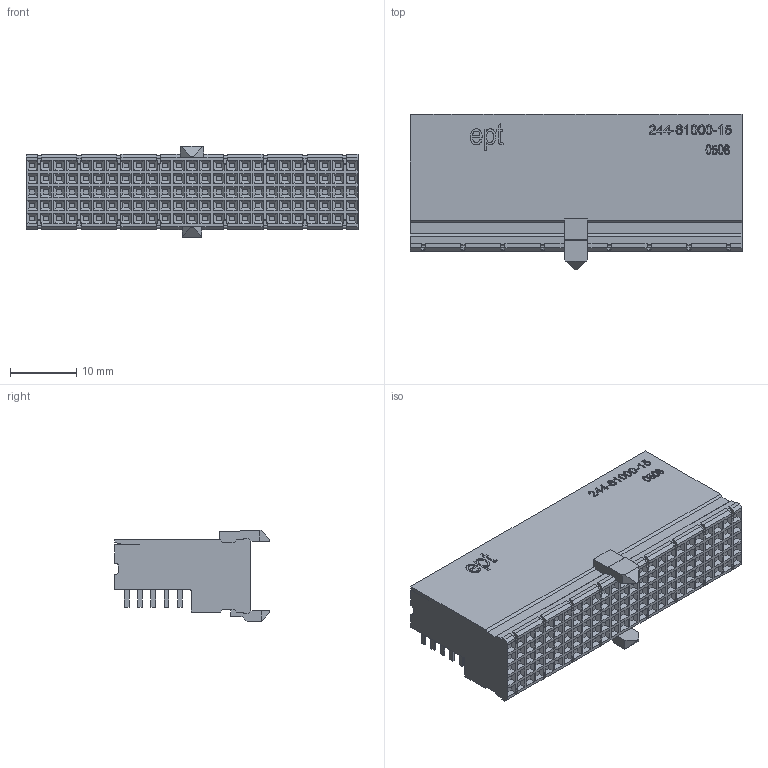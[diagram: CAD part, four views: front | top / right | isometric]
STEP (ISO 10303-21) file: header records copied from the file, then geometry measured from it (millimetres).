
FILE_DESCRIPTION (( 'STEP AP214' ), '1' );
FILE_NAME ('244-61000-15 Vertriebsmodell.STEP', '2008-05-27T08:41:41', ( '' ), ( '' ), 'SwSTEP 2.0', 'SolidWorks 2007', '' );
FILE_SCHEMA (( 'AUTOMOTIVE_DESIGN' ));
Length unit declared in the file: millimetre
Products named in the file (1): 244-61000-15 Vertriebsmodell
Bounding box: 49.94 x 23.45 x 13.7 mm (x, y, z)
Volume: 9003.9 mm3; surface area: 8375.7 mm2
Topology: 1 solids, 1 shells, 2828 faces, 7578 edges, 5052 vertices
Faces by surface type: plane 2200, cylinder 499, bspline 129
Entity records: 94693 total; most frequent: CARTESIAN_POINT 24127, ORIENTED_EDGE 15156, DIRECTION 13363, EDGE_CURVE 7578, VECTOR 6275, LINE 6275, VERTEX_POINT 5052, AXIS2_PLACEMENT_3D 3544
